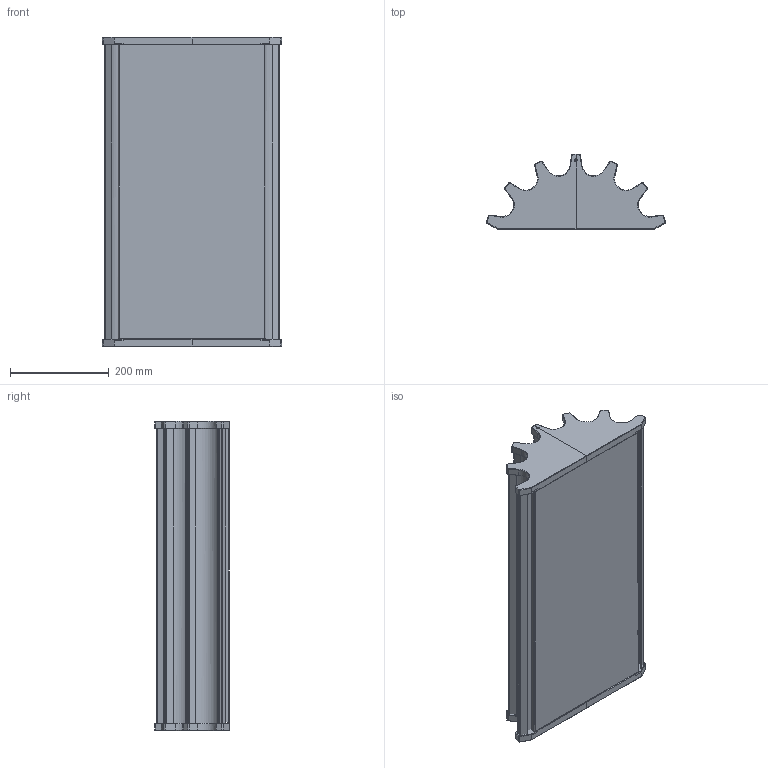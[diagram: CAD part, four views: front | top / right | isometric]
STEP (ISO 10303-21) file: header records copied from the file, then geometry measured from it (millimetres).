
FILE_DESCRIPTION(/* description */ (''),/* implementation_level */ '2;1');
FILE_NAME(/* name */ 'A148__~1',/* time_stamp */ '2024-07-03T14:47:08+02:00',/* author */ (''),/* organization */ (''),/* preprocessor_version */ 'ST-DEVELOPER v16.5',/* originating_system */ '',/* authorisation */ '');
FILE_SCHEMA (('AUTOMOTIVE_DESIGN'));
Length unit declared in the file: millimetre
Products named in the file (1): Document
Bounding box: 362.24 x 151.12 x 625.5 mm (x, y, z)
Volume: 2765683.1 mm3; surface area: 1601704.9 mm2
Topology: 19 solids, 19 shells, 844 faces, 1972 edges, 1100 vertices
Faces by surface type: bspline 466, plane 378
Entity records: 26232 total; most frequent: CARTESIAN_POINT 14210, ORIENTED_EDGE 3804, EDGE_CURVE 1902, B_SPLINE_CURVE_WITH_KNOTS 1364, VERTEX_POINT 1100, EDGE_LOOP 848, ADVANCED_FACE 844, FACE_OUTER_BOUND 844
